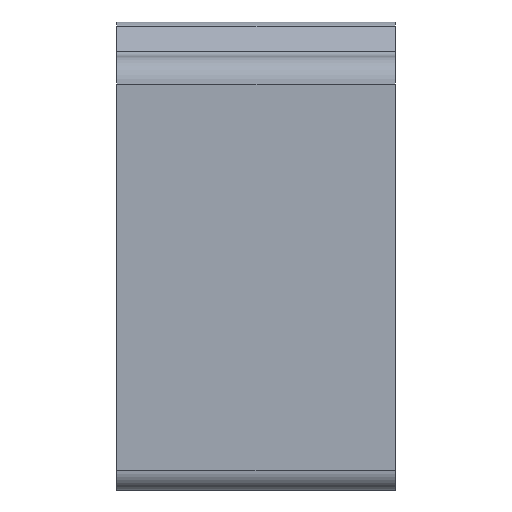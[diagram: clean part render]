
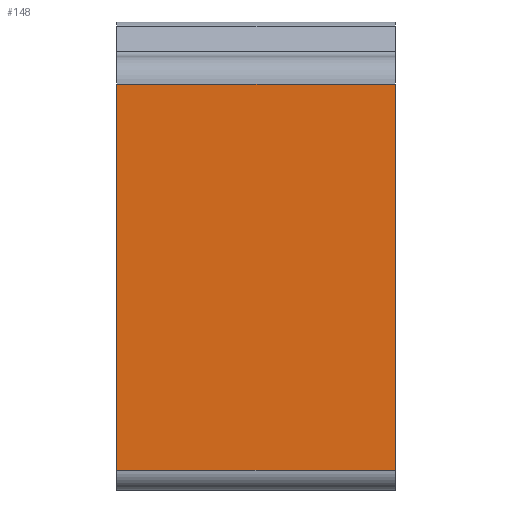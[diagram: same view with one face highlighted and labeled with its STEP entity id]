
A CAD part, front view. The second image highlights one B-rep face of the part: STEP entity #148.
In plain terms, the highlighted planar face has unit normal (0, -1, 0).
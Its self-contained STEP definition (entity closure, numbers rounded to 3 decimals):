
#12 = EDGE_CURVE ( 'NONE', #409, #510, #232, .T. ) ;
#30 = DIRECTION ( 'NONE',  ( 0., 0., -1. ) ) ;
#69 = CARTESIAN_POINT ( 'NONE',  ( 10., 0., -4.45 ) ) ;
#134 = EDGE_CURVE ( 'NONE', #581, #409, #268, .T. ) ;
#137 = CARTESIAN_POINT ( 'NONE',  ( -10., 0., -32.17 ) ) ;
#148 = ADVANCED_FACE ( 'NONE', ( #903 ), #1210, .F. ) ;
#181 = EDGE_CURVE ( 'NONE', #1142, #510, #1005, .T. ) ;
#232 = LINE ( 'NONE', #1082, #514 ) ;
#248 = CARTESIAN_POINT ( 'NONE',  ( 10., 0., -32.17 ) ) ;
#254 = CARTESIAN_POINT ( 'NONE',  ( 10., 0., -4.45 ) ) ;
#268 = LINE ( 'NONE', #1200, #1001 ) ;
#293 = ORIENTED_EDGE ( 'NONE', *, *, #12, .T. ) ;
#340 = LINE ( 'NONE', #991, #1173 ) ;
#353 = DIRECTION ( 'NONE',  ( 0., 1., 0. ) ) ;
#389 = VECTOR ( 'NONE', #821, 1000. ) ;
#409 = VERTEX_POINT ( 'NONE', #1066 ) ;
#450 = ORIENTED_EDGE ( 'NONE', *, *, #181, .F. ) ;
#510 = VERTEX_POINT ( 'NONE', #137 ) ;
#514 = VECTOR ( 'NONE', #30, 1000. ) ;
#556 = CARTESIAN_POINT ( 'NONE',  ( 10., 0., -32.17 ) ) ;
#581 = VERTEX_POINT ( 'NONE', #69 ) ;
#810 = DIRECTION ( 'NONE',  ( -1., 0., 0. ) ) ;
#821 = DIRECTION ( 'NONE',  ( -1., 0., 0. ) ) ;
#903 = FACE_OUTER_BOUND ( 'NONE', #1075, .T. ) ;
#904 = ORIENTED_EDGE ( 'NONE', *, *, #134, .T. ) ;
#991 = CARTESIAN_POINT ( 'NONE',  ( 10., 0., -4.45 ) ) ;
#1001 = VECTOR ( 'NONE', #810, 1000. ) ;
#1005 = LINE ( 'NONE', #248, #389 ) ;
#1021 = EDGE_CURVE ( 'NONE', #581, #1142, #340, .T. ) ;
#1066 = CARTESIAN_POINT ( 'NONE',  ( -10., 0., -4.45 ) ) ;
#1075 = EDGE_LOOP ( 'NONE', ( #293, #450, #1130, #904 ) ) ;
#1082 = CARTESIAN_POINT ( 'NONE',  ( -10., 0., -4.45 ) ) ;
#1083 = AXIS2_PLACEMENT_3D ( 'NONE', #254, #353, #1100 ) ;
#1100 = DIRECTION ( 'NONE',  ( 0., 0., 1. ) ) ;
#1108 = DIRECTION ( 'NONE',  ( 0., 0., -1. ) ) ;
#1130 = ORIENTED_EDGE ( 'NONE', *, *, #1021, .F. ) ;
#1142 = VERTEX_POINT ( 'NONE', #556 ) ;
#1173 = VECTOR ( 'NONE', #1108, 1000. ) ;
#1200 = CARTESIAN_POINT ( 'NONE',  ( 10., 0., -4.45 ) ) ;
#1210 = PLANE ( 'NONE',  #1083 ) ;
